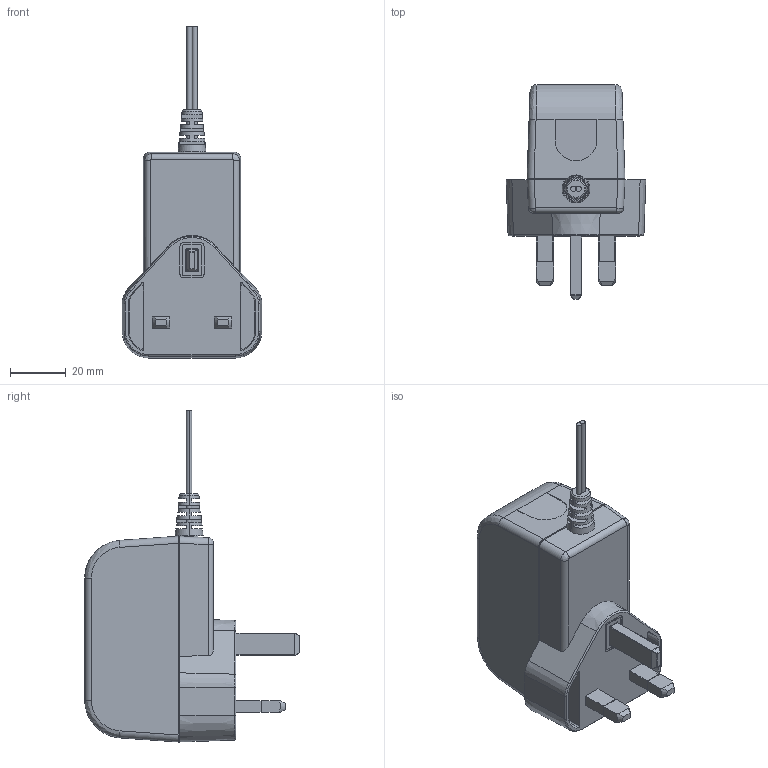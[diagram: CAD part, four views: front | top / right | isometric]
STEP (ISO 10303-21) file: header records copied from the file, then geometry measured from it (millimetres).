
FILE_DESCRIPTION((''),'2;1');
FILE_NAME('20PFE_ASSY_ASM','2025-03-05T11:23:29',('huangjun'),(''),'CREO PARAMETRIC BY PTC INC, 2018260','CREO PARAMETRIC BY PTC INC, 2018260','');
FILE_SCHEMA(('CONFIG_CONTROL_DESIGN'));
Length unit declared in the file: millimetre
Products named in the file (6): 20W_TOP; UK_BOT; UK_PIN_; UK_BOT_ASM; S15_SR; 20PFE_ASSY_ASM
Assembly tree (6 placements, depth 3):
  20PFE_ASSY_ASM
    20W_TOP
    UK_BOT_ASM
      UK_BOT
      UK_PIN_  x2
    S15_SR
Bounding box: 49.9 x 76.7 x 118.6 mm (x, y, z)
Volume: 37163.8 mm3; surface area: 37102.5 mm2
Topology: 7 solids, 7 shells, 664 faces, 1653 edges, 1032 vertices
Faces by surface type: plane 452, cylinder 128, cone 21, extrusion 20, bspline 17, torus 14, sphere 12
Entity records: 20175 total; most frequent: CARTESIAN_POINT 5484, ORIENTED_EDGE 3102, DIRECTION 2836, EDGE_CURVE 1551, VECTOR 1150, LINE 1130, VERTEX_POINT 964, AXIS2_PLACEMENT_3D 843
